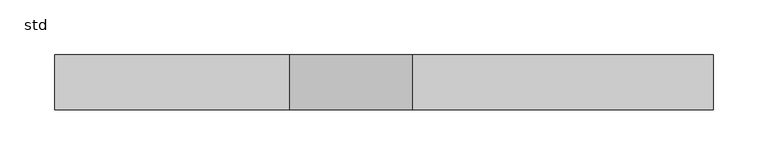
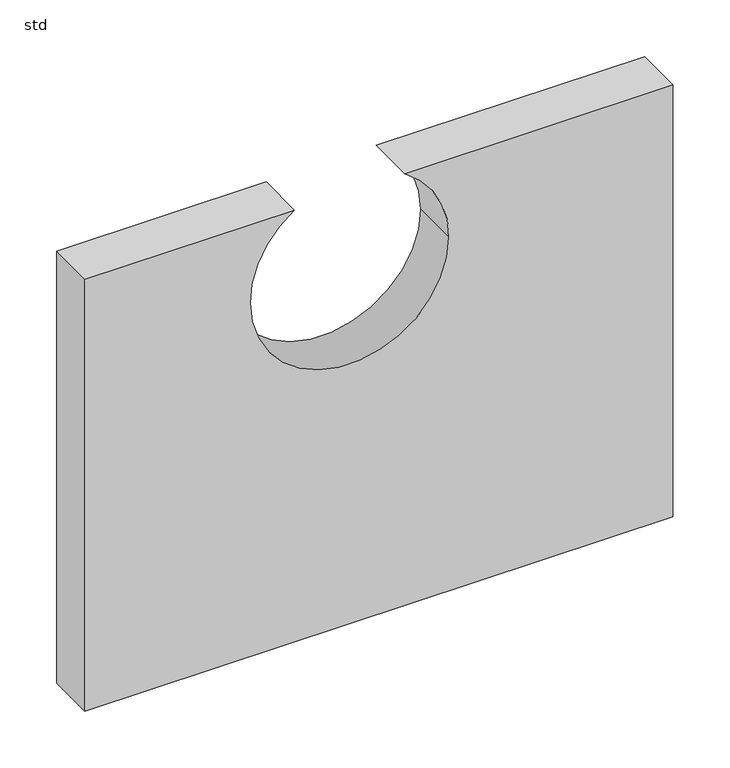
"""IFC4 building model written with IfcOpenShell, lengths in millimetres: unitary equipment geometry, Z_ME_UN_Q-Bic_Plus_Connection_Plate_Wavin_(nested) : std."""

from ifc_helpers import new_model, si_unit, point, frame, frame_2d, origin, place, context, project, spatial, polyline, circle_curve, trimmed, segment, composite_curve, outline, extrude, source, transform, mapped, element, save


def std_9ab658ca(model_context):
    return source(origin(), model_context, "Body", "SweptSolid", [
        extrude(outline(composite_curve([segment(polyline([(92.0, 0.0), (92.0, 600.0), (558.0, 600.0), (558.0, 326.2316637)]), True, "CONTINUOUS"), segment(trimmed(circle_curve(frame_2d((473.5, 270.0)), 101.5), [point((558.0, 326.2316637))], [point((473.5, 371.5))], True, "CARTESIAN"), True, "CONTINUOUS"), segment(trimmed(circle_curve(frame_2d((473.5, 270.0)), 101.5), [point((473.5, 371.5))], [point((473.5, 168.5))], True, "CARTESIAN"), True, "CONTINUOUS"), segment(trimmed(circle_curve(frame_2d((473.5, 270.0)), 101.5), [point((473.5, 168.5))], [point((558.0, 213.7683363))], True, "CARTESIAN"), True, "CONTINUOUS"), segment(polyline([(558.0, 213.7683363), (558.0, 0.0), (92.0, 0.0)]), True, "CONTINUOUS")], self_intersect=False)), frame((0.0, 0.0, 0.0), z_axis=(0.0, 1.0, 0.0), x_axis=(0.0, 0.0, 1.0)), (0.0, 0.0, 1.0), 50.0),
    ])


if __name__ == "__main__":
    model = new_model("IFC4")
    model_context = context("Model", 3, world=origin())
    ifc_project = project(units=[si_unit("LENGTHUNIT", "METRE", prefix="MILLI")], contexts=[model_context])
    site = spatial("IfcSite", under=ifc_project)
    building = spatial("IfcBuilding", under=site)
    placement = place(None, origin())
    std_shape = std_9ab658ca(model_context)
    element("IfcUnitaryEquipment", 1, ObjectType="Z_ME_UN_Q-Bic_Plus_Connection_Plate_Wavin_(nested) : std", at=placement, inside=building, context=model_context, shape_type="MappedRepresentation", body=[
        mapped(std_shape, transform((0.0, 0.0, 0.0), x_axis=(1.0, 0.0, 0.0), y_axis=(0.0, 1.0, 0.0), z_axis=(0.0, 0.0, 1.0))),
    ])
    save(model, "model.ifc")
